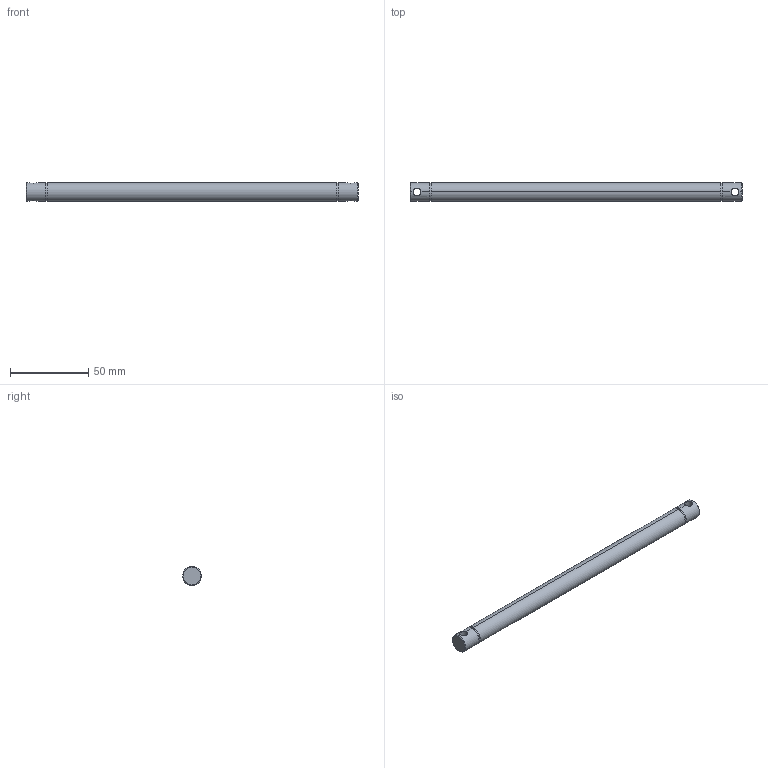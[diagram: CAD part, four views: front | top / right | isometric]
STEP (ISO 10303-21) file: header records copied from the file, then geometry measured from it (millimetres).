
FILE_DESCRIPTION (( 'STEP AP214' ), '1' );
FILE_NAME ('084.030.206.STEP', '2021-02-05T15:51:57', ( '' ), ( '' ), 'SwSTEP 2.0', 'SolidWorks 2018', '' );
FILE_SCHEMA (( 'AUTOMOTIVE_DESIGN' ));
Length unit declared in the file: millimetre
Products named in the file (1): 084.030.206
Bounding box: 212 x 12 x 12 mm (x, y, z)
Volume: 23486.4 mm3; surface area: 8508.8 mm2
Topology: 1 solids, 1 shells, 24 faces, 54 edges, 32 vertices
Faces by surface type: cylinder 14, plane 6, cone 4
Entity records: 976 total; most frequent: CARTESIAN_POINT 351, DIRECTION 120, ORIENTED_EDGE 108, EDGE_CURVE 54, AXIS2_PLACEMENT_3D 49, VERTEX_POINT 32, EDGE_LOOP 28, FACE_OUTER_BOUND 24
